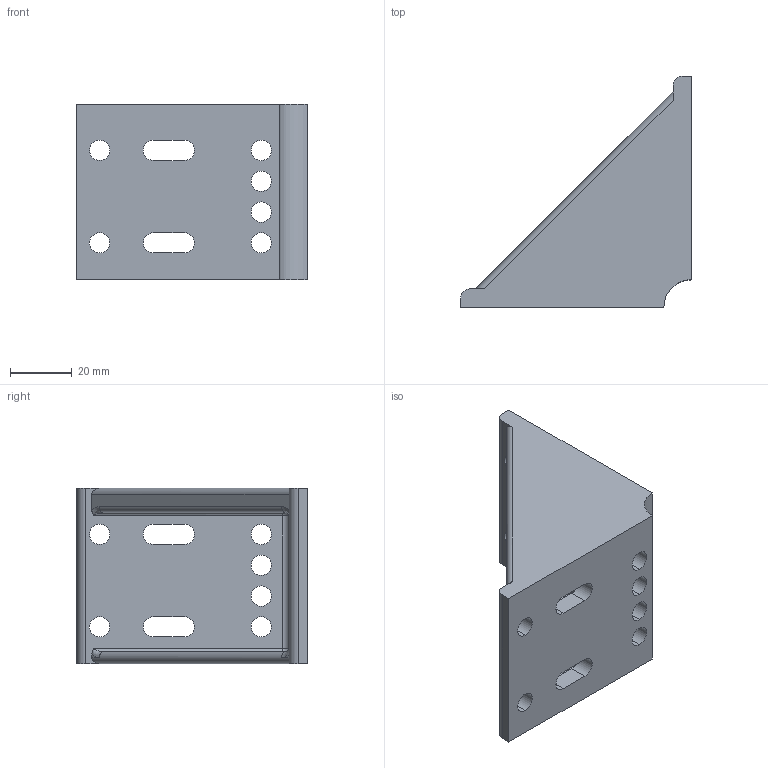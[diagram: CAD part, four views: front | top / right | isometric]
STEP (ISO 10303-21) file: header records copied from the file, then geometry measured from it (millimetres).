
FILE_DESCRIPTION (( 'STEP AP203' ), '1' );
FILE_NAME ('WT5775-6.STEP', '2024-02-19T01:02:09', ( '' ), ( '' ), 'SwSTEP 2.0', 'SolidWorks 2022', '' );
FILE_SCHEMA (( 'CONFIG_CONTROL_DESIGN' ));
Length unit declared in the file: millimetre
Products named in the file (1): WT5775-6
Bounding box: 75 x 75 x 57 mm (x, y, z)
Volume: 64897.7 mm3; surface area: 26465.5 mm2
Topology: 1 solids, 1 shells, 70 faces, 196 edges, 128 vertices
Faces by surface type: cylinder 43, plane 21, bspline 4, torus 2
Entity records: 2737 total; most frequent: CARTESIAN_POINT 773, ORIENTED_EDGE 392, DIRECTION 392, EDGE_CURVE 196, AXIS2_PLACEMENT_3D 147, VERTEX_POINT 128, EDGE_LOOP 102, LINE 98
